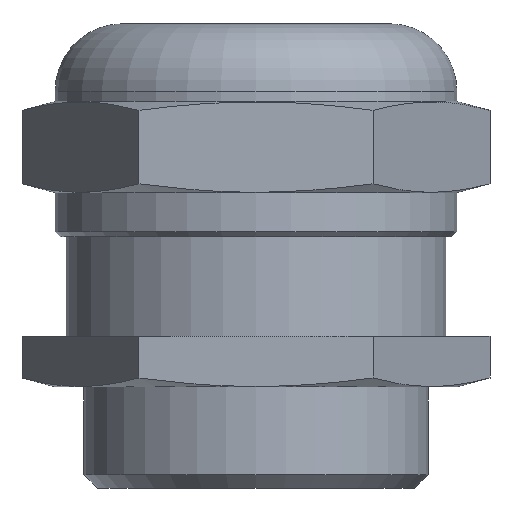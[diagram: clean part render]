
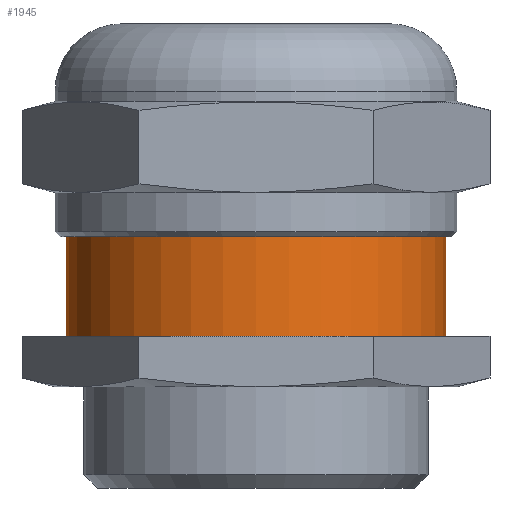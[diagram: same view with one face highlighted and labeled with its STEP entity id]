
A CAD part, left-side view. The second image highlights one B-rep face of the part: STEP entity #1945.
In plain terms, the highlighted cylindrical face has radius 11.25 mm (diameter 22.5 mm), a partial arc.
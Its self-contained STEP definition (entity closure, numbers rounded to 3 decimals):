
#1105 = LINE ( 'NONE', #1144, #1137 ) ;
#1136 = DIRECTION ( 'NONE',  ( 0., 0., -1. ) ) ;
#1137 = VECTOR ( 'NONE', #1136, 1000. ) ;
#1144 = CARTESIAN_POINT ( 'NONE',  ( 0., 11.25, 0. ) ) ;
#1216 = AXIS2_PLACEMENT_3D ( 'NONE', #1401, #1372, #1397 ) ;
#1222 = CARTESIAN_POINT ( 'NONE',  ( 0., -11.25, 14.9 ) ) ;
#1223 = CARTESIAN_POINT ( 'NONE',  ( 0., 11.25, 14.9 ) ) ;
#1227 = CARTESIAN_POINT ( 'NONE',  ( 0., 11.25, 9. ) ) ;
#1238 = CARTESIAN_POINT ( 'NONE',  ( 0., -11.25, 9. ) ) ;
#1250 = CARTESIAN_POINT ( 'NONE',  ( 0., -11.25, 0. ) ) ;
#1251 = LINE ( 'NONE', #1250, #1271 ) ;
#1265 = CIRCLE ( 'NONE', #1216, 11.25 ) ;
#1270 = DIRECTION ( 'NONE',  ( 0., 0., -1. ) ) ;
#1271 = VECTOR ( 'NONE', #1270, 1000. ) ;
#1300 = CYLINDRICAL_SURFACE ( 'NONE', #1307, 11.25 ) ;
#1307 = AXIS2_PLACEMENT_3D ( 'NONE', #1323, #1322, #1321 ) ;
#1318 = FACE_OUTER_BOUND ( 'NONE', #1946, .T. ) ;
#1321 = DIRECTION ( 'NONE',  ( 0., 1., 0. ) ) ;
#1322 = DIRECTION ( 'NONE',  ( 0., 0., -1. ) ) ;
#1323 = CARTESIAN_POINT ( 'NONE',  ( 0., 0., 0. ) ) ;
#1372 = DIRECTION ( 'NONE',  ( 0., 0., -1. ) ) ;
#1397 = DIRECTION ( 'NONE',  ( 0., 1., 0. ) ) ;
#1401 = CARTESIAN_POINT ( 'NONE',  ( 0., 0., 9. ) ) ;
#1411 = DIRECTION ( 'NONE',  ( 0., 1., 0. ) ) ;
#1412 = DIRECTION ( 'NONE',  ( 0., 0., -1. ) ) ;
#1413 = CARTESIAN_POINT ( 'NONE',  ( 0., 0., 14.9 ) ) ;
#1416 = AXIS2_PLACEMENT_3D ( 'NONE', #1413, #1412, #1411 ) ;
#1417 = CIRCLE ( 'NONE', #1416, 11.25 ) ;
#1797 = EDGE_CURVE ( 'NONE', #1826, #1839, #1105, .T. ) ;
#1826 = VERTEX_POINT ( 'NONE', #1223 ) ;
#1832 = VERTEX_POINT ( 'NONE', #1222 ) ;
#1839 = VERTEX_POINT ( 'NONE', #1227 ) ;
#1845 = EDGE_CURVE ( 'NONE', #1832, #1849, #1251, .T. ) ;
#1849 = VERTEX_POINT ( 'NONE', #1238 ) ;
#1859 = ORIENTED_EDGE ( 'NONE', *, *, #1845, .F. ) ;
#1860 = ORIENTED_EDGE ( 'NONE', *, *, #1872, .T. ) ;
#1861 = ORIENTED_EDGE ( 'NONE', *, *, #1797, .T. ) ;
#1863 = ORIENTED_EDGE ( 'NONE', *, *, #1864, .F. ) ;
#1864 = EDGE_CURVE ( 'NONE', #1849, #1839, #1265, .T. ) ;
#1872 = EDGE_CURVE ( 'NONE', #1832, #1826, #1417, .T. ) ;
#1945 = ADVANCED_FACE ( 'NONE', ( #1318 ), #1300, .T. ) ;
#1946 = EDGE_LOOP ( 'NONE', ( #1859, #1860, #1861, #1863 ) ) ;
